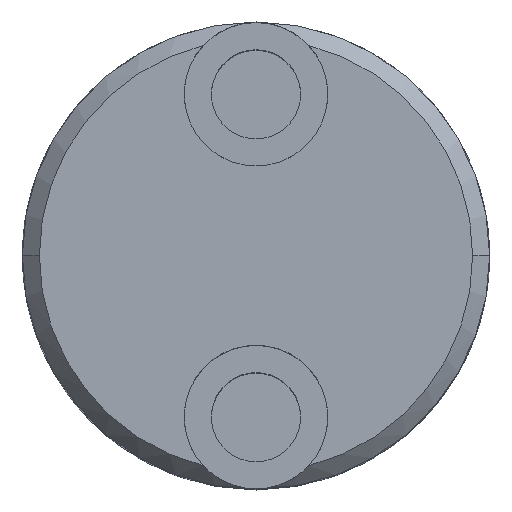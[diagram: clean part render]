
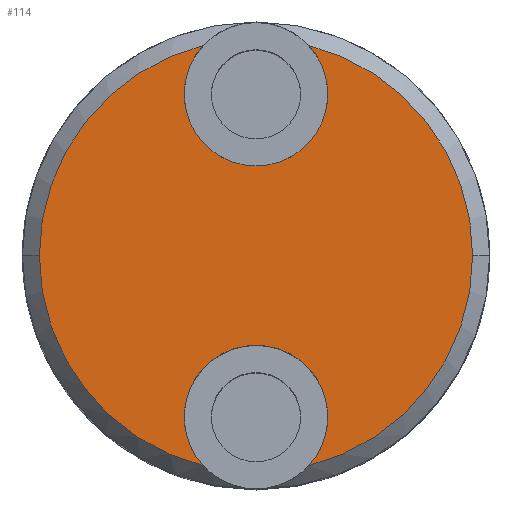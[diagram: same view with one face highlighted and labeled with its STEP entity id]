
A CAD part, top view. The second image highlights one B-rep face of the part: STEP entity #114.
In plain terms, the highlighted planar face has unit normal (0, 0, 1).
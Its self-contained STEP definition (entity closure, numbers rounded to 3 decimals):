
#114=ADVANCED_FACE('',(#173),#172,.T.);
#172=PLANE('',#562);
#173=FACE_OUTER_BOUND('',#563,.T.);
#559=CARTESIAN_POINT('',(30.6,-29.679,25.));
#560=DIRECTION('',(0.,0.,1.));
#561=DIRECTION('',(0.,1.,0.));
#562=AXIS2_PLACEMENT_3D('',#559,#560,#561);
#563=EDGE_LOOP('',(#837,#838,#839,#840,#841,#842,#843,#844));
#837=ORIENTED_EDGE('',*,*,#1016,.T.);
#838=ORIENTED_EDGE('',*,*,#1017,.T.);
#839=ORIENTED_EDGE('',*,*,#1018,.T.);
#840=ORIENTED_EDGE('',*,*,#1019,.T.);
#841=ORIENTED_EDGE('',*,*,#1020,.T.);
#842=ORIENTED_EDGE('',*,*,#1021,.T.);
#843=ORIENTED_EDGE('',*,*,#1022,.T.);
#844=ORIENTED_EDGE('',*,*,#1023,.T.);
#1016=EDGE_CURVE('',#1153,#1154,#1155,.T.);
#1017=EDGE_CURVE('',#1154,#1161,#1162,.T.);
#1018=EDGE_CURVE('',#1161,#1168,#1169,.T.);
#1019=EDGE_CURVE('',#1168,#1175,#1176,.T.);
#1020=EDGE_CURVE('',#1175,#1182,#1183,.T.);
#1021=EDGE_CURVE('',#1182,#1189,#1190,.T.);
#1022=EDGE_CURVE('',#1189,#1196,#1197,.T.);
#1023=EDGE_CURVE('',#1196,#1153,#1203,.T.);
#1153=VERTEX_POINT('',#1813);
#1154=VERTEX_POINT('',#1814);
#1155=CIRCLE('',#1818,25.5);
#1161=VERTEX_POINT('',#1819);
#1162=CIRCLE('',#1823,25.5);
#1168=VERTEX_POINT('',#1824);
#1169=CIRCLE('',#1828,8.45);
#1175=VERTEX_POINT('',#1829);
#1176=CIRCLE('',#1833,8.45);
#1182=VERTEX_POINT('',#1834);
#1183=CIRCLE('',#1838,25.5);
#1189=VERTEX_POINT('',#1839);
#1190=CIRCLE('',#1843,25.5);
#1196=VERTEX_POINT('',#1844);
#1197=CIRCLE('',#1848,8.45);
#1203=CIRCLE('',#1852,8.45);
#1813=CARTESIAN_POINT('',(6.208,-24.733,25.));
#1814=CARTESIAN_POINT('',(25.5,0.,25.));
#1815=CARTESIAN_POINT('',(0.,0.,25.));
#1816=DIRECTION('',(0.,0.,1.));
#1817=DIRECTION('',(0.,-1.,0.));
#1818=AXIS2_PLACEMENT_3D('',#1815,#1816,#1817);
#1819=CARTESIAN_POINT('',(6.208,24.733,25.));
#1820=CARTESIAN_POINT('',(0.,0.,25.));
#1821=DIRECTION('',(0.,0.,1.));
#1822=DIRECTION('',(0.,-1.,0.));
#1823=AXIS2_PLACEMENT_3D('',#1820,#1821,#1822);
#1824=CARTESIAN_POINT('',(0.,10.55,25.));
#1825=CARTESIAN_POINT('',(0.,19.,25.));
#1826=DIRECTION('',(0.,0.,-1.));
#1827=DIRECTION('',(0.,1.,0.));
#1828=AXIS2_PLACEMENT_3D('',#1825,#1826,#1827);
#1829=CARTESIAN_POINT('',(-6.208,24.733,25.));
#1830=CARTESIAN_POINT('',(0.,19.,25.));
#1831=DIRECTION('',(0.,0.,-1.));
#1832=DIRECTION('',(0.,1.,0.));
#1833=AXIS2_PLACEMENT_3D('',#1830,#1831,#1832);
#1834=CARTESIAN_POINT('',(-25.5,0.,25.));
#1835=CARTESIAN_POINT('',(0.,0.,25.));
#1836=DIRECTION('',(0.,0.,1.));
#1837=DIRECTION('',(0.,-1.,0.));
#1838=AXIS2_PLACEMENT_3D('',#1835,#1836,#1837);
#1839=CARTESIAN_POINT('',(-6.208,-24.733,25.));
#1840=CARTESIAN_POINT('',(0.,0.,25.));
#1841=DIRECTION('',(0.,0.,1.));
#1842=DIRECTION('',(0.,-1.,0.));
#1843=AXIS2_PLACEMENT_3D('',#1840,#1841,#1842);
#1844=CARTESIAN_POINT('',(0.,-10.55,25.));
#1845=CARTESIAN_POINT('',(0.,-19.,25.));
#1846=DIRECTION('',(0.,0.,-1.));
#1847=DIRECTION('',(-0.735,-0.678,0.));
#1848=AXIS2_PLACEMENT_3D('',#1845,#1846,#1847);
#1849=CARTESIAN_POINT('',(0.,-19.,25.));
#1850=DIRECTION('',(0.,0.,-1.));
#1851=DIRECTION('',(-0.735,-0.678,0.));
#1852=AXIS2_PLACEMENT_3D('',#1849,#1850,#1851);
